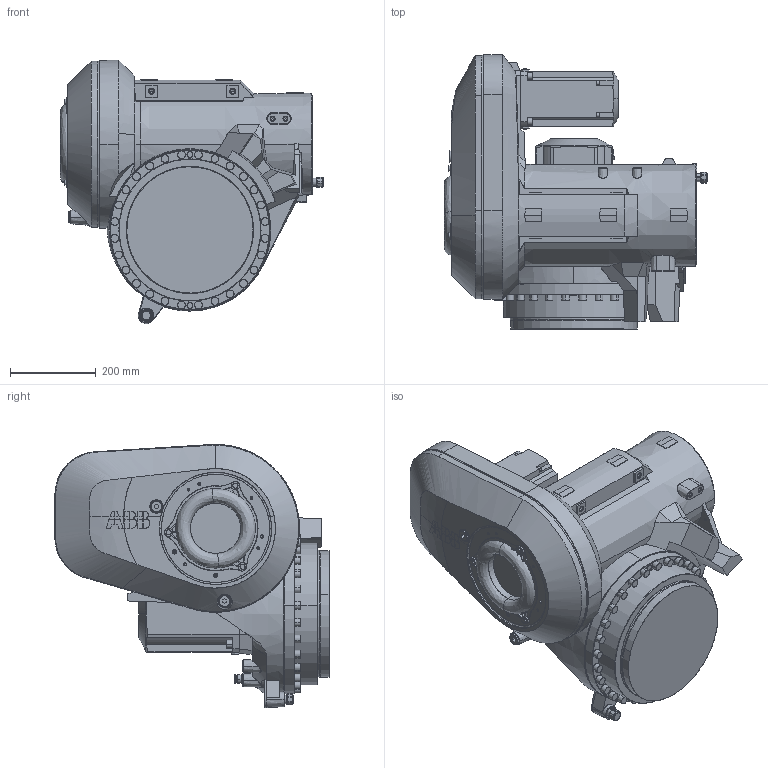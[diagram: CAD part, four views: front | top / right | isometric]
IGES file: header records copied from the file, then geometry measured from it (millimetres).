
Start section: SolidWorks IGES file using analytic representation for surfaces
Global section: file name: C:\Data\SAP_DOC\IRB6740_lightweight\6750S\IRB 6750S ASM\IRB6750S_215kg-390_OC_01_SW_J\IRB6750S_215kg-390_OC_01_IGES_J\IRB6750S_All_OC_00_LINK03_CAD.igs; native system: SolidWorks 2024; preprocessor: SolidWorks 2024; author: SEJAOLS6; date: 260513.072212; units: millimetre
Bounding box: 614.5 x 640 x 614.73 mm (x, y, z)
Surface area: 1908708.7 mm2 (no closed solid volume)
Topology: 0 solids, 0 shells, 1407 faces, 19758 edges, 19710 vertices
Faces by surface type: bspline 824, revolution 583
